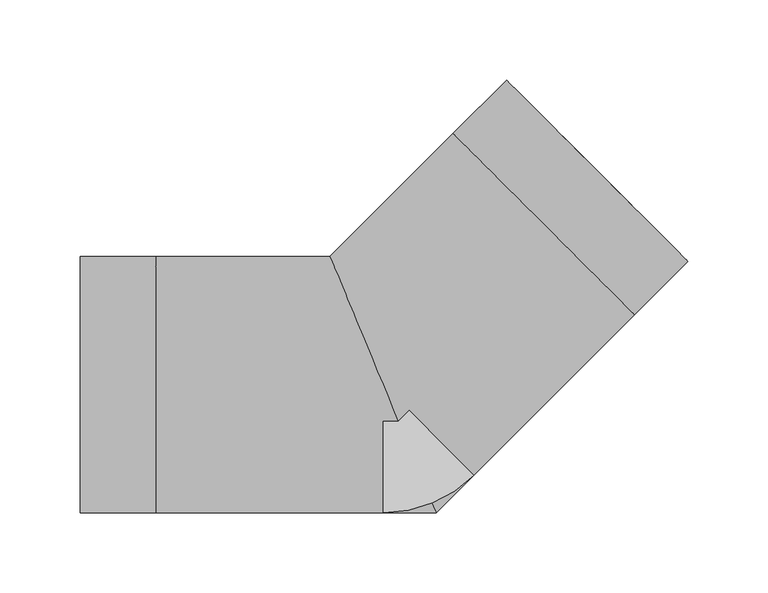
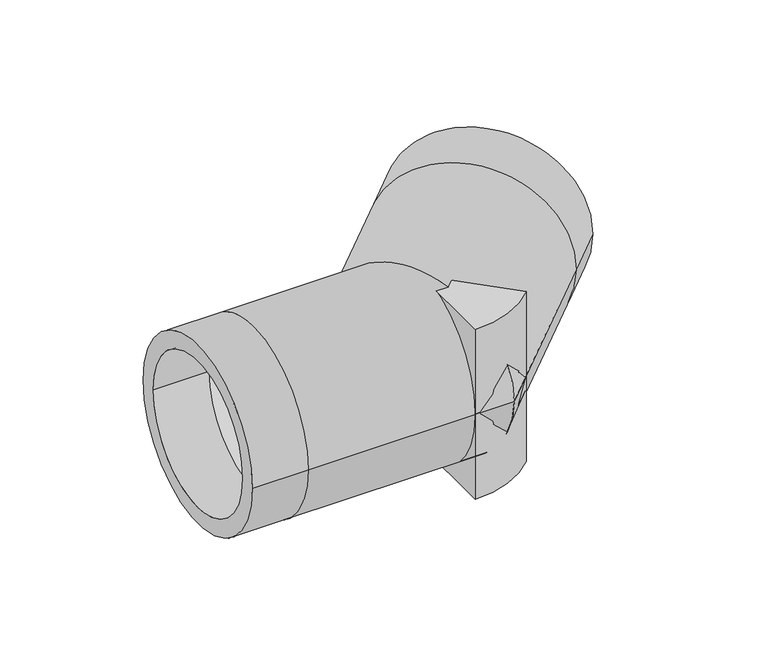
"""IFC4 building model written with IfcOpenShell, lengths in millimetres: pipe fitting geometry, Aquatherm - Elbow Green BW Segmented : SDR 11 NON-FASER."""

from ifc_helpers import new_model, si_unit, point, frame, origin, origin_with_axes, origin_2d, place, context, project, spatial, polyline, circle_curve, ellipse_curve, trimmed, segment, composite_curve, outline, extrude, source, transform, mapped, element, save
from ifc_brep_helpers import plane_surface, cylinder_surface, revolved_surface, advanced_brep


def pipe_fitting_9c2f3510(model_context):
    return source(origin(), model_context, "Body", "SolidModel", [
        extrude(outline(composite_curve([segment(polyline([(0.0, -80.01), (0.0, 0.0), (56.5756136, -56.5756136)]), True, "CONTINUOUS"), segment(trimmed(circle_curve(origin_2d(), 80.01), [point((56.5756136, -56.5756136))], [point((0.0, -80.01))], False, "CARTESIAN"), True, "CONTINUOUS")], self_intersect=False)), frame((0.0, 0.0, -76.2), z_axis=(0.0, 0.0, 1.0), x_axis=(1.0, 0.0, 0.0)), (0.0, 0.0, 1.0), 76.2),
        extrude(outline(composite_curve([segment(trimmed(circle_curve(origin_2d(), 80.01), [point((56.5756136, -56.5756136))], [point((0.0, -80.01))], False, "CARTESIAN"), True, "CONTINUOUS"), segment(polyline([(0.0, -80.01), (0.0, 0.0), (56.5756136, -56.5756136)]), True, "CONTINUOUS")], self_intersect=False)), origin_with_axes(), (0.0, 0.0, 1.0), 76.2),
        advanced_brep(
        [(-188.976, -80.01, 0.0), (-188.976, 80.01, 0.0), (-188.976, -65.4627273, 0.0), (-188.976, 65.4627273, 0.0), (190.2018246, 77.0505975, 0.0), (77.0505975, 190.2018246, 0.0), (179.9153495, 87.3370727, 0.0), (87.3370727, 179.9153495, 0.0), (-141.732, -80.01, 0.0), (-141.732, 80.01, 0.0), (-141.732, -65.4627273, 0.0), (-141.732, 65.4627273, 0.0), (33.1412271, -80.01, 0.0), (-33.1412271, 80.01, 0.0), (27.1155495, -65.4627273, 0.0), (-27.1155495, 65.4627273, 0.0), (156.7952719, 43.6440447, 0.0), (43.6440447, 156.7952719, 0.0), (146.5087967, 53.9305199, 0.0), (53.9305199, 146.5087967, 0.0)],
        [
            (0, 1, circle_curve(frame((-188.976, 0.0, 0.0), z_axis=(-1.0, 0.0, 0.0), x_axis=(0.0, 1.0, 0.0)), 80.01)),
            (1, 0, circle_curve(frame((-188.976, 0.0, 0.0), z_axis=(-1.0, 0.0, 0.0), x_axis=(0.0, 1.0, 0.0)), 80.01)),
            (2, 3, circle_curve(frame((-188.976, 0.0, 0.0), z_axis=(1.0, 0.0, 0.0), x_axis=(0.0, 1.0, 0.0)), 65.4627273)),
            (3, 2, circle_curve(frame((-188.976, 0.0, 0.0), z_axis=(1.0, 0.0, 0.0), x_axis=(0.0, 1.0, 0.0)), 65.4627273)),
            (4, 5, circle_curve(frame((133.6262111, 133.6262111, 0.0), z_axis=(0.7071067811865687, 0.7071067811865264, 0.0), x_axis=(-0.7071067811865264, 0.7071067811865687, 0.0)), 80.01)),
            (5, 4, circle_curve(frame((133.6262111, 133.6262111, 0.0), z_axis=(0.7071067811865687, 0.7071067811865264, 0.0), x_axis=(-0.7071067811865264, 0.7071067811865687, 0.0)), 80.01)),
            (6, 7, circle_curve(frame((133.6262111, 133.6262111, 0.0), z_axis=(-0.7071067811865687, -0.7071067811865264, 0.0), x_axis=(-0.7071067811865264, 0.7071067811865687, 0.0)), 65.4627273)),
            (7, 6, circle_curve(frame((133.6262111, 133.6262111, 0.0), z_axis=(-0.7071067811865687, -0.7071067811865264, 0.0), x_axis=(-0.7071067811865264, 0.7071067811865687, 0.0)), 65.4627273)),
            (0, 8),
            (8, 9, circle_curve(frame((-141.732, 0.0, 0.0), z_axis=(-1.0, 0.0, 0.0), x_axis=(0.0, 1.0, 0.0)), 80.01)),
            (9, 1),
            (9, 8, circle_curve(frame((-141.732, 0.0, 0.0), z_axis=(-1.0, 0.0, 0.0), x_axis=(0.0, 1.0, 0.0)), 80.01)),
            (2, 10),
            (10, 11, circle_curve(frame((-141.732, 0.0, 0.0), z_axis=(1.0, 0.0, 0.0), x_axis=(0.0, 1.0, 0.0)), 65.4627273)),
            (11, 3),
            (11, 10, circle_curve(frame((-141.732, 0.0, 0.0), z_axis=(1.0, 0.0, 0.0), x_axis=(0.0, 1.0, 0.0)), 65.4627273)),
            (8, 12),
            (12, 13, ellipse_curve(frame((0.0, 0.0, 0.0), z_axis=(-0.923879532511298, -0.3826834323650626, 0.0), x_axis=(-0.3826834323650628, 0.923879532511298, 0.0)), 86.6021999, 80.01)),
            (13, 9),
            (13, 12, ellipse_curve(frame((0.0, 0.0, 0.0), z_axis=(-0.923879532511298, -0.3826834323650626, 0.0), x_axis=(-0.3826834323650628, 0.923879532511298, 0.0)), 86.6021999, 80.01)),
            (10, 14),
            (14, 15, ellipse_curve(frame((0.0, 0.0, 0.0), z_axis=(0.923879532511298, 0.3826834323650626, 0.0), x_axis=(0.3826834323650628, -0.923879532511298, 0.0)), 70.8563454, 65.4627273)),
            (15, 11),
            (15, 14, ellipse_curve(frame((0.0, 0.0, 0.0), z_axis=(0.923879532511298, 0.3826834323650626, 0.0), x_axis=(0.3826834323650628, -0.923879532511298, 0.0)), 70.8563454, 65.4627273)),
            (12, 16),
            (16, 17, circle_curve(frame((100.2196583, 100.2196583, 0.0), z_axis=(-0.7071067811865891, -0.7071067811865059, 0.0), x_axis=(-0.7071067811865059, 0.7071067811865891, 0.0)), 80.01)),
            (17, 13),
            (17, 16, circle_curve(frame((100.2196583, 100.2196583, 0.0), z_axis=(-0.7071067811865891, -0.7071067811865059, 0.0), x_axis=(-0.7071067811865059, 0.7071067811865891, 0.0)), 80.01)),
            (14, 18),
            (18, 19, circle_curve(frame((100.2196583, 100.2196583, 0.0), z_axis=(0.7071067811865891, 0.7071067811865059, 0.0), x_axis=(-0.7071067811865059, 0.7071067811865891, 0.0)), 65.4627273)),
            (19, 15),
            (19, 18, circle_curve(frame((100.2196583, 100.2196583, 0.0), z_axis=(0.7071067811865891, 0.7071067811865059, 0.0), x_axis=(-0.7071067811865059, 0.7071067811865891, 0.0)), 65.4627273)),
            (16, 4),
            (5, 17),
            (18, 6),
            (7, 19),
        ],
        [
            plane_surface(frame((-188.976, 0.0, 0.0), z_axis=(-1.0, 0.0, 0.0), x_axis=(0.0, 0.0, 1.0))),
            plane_surface(frame((133.6262111, 133.6262111, 0.0), z_axis=(0.7071067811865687, 0.7071067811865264, 0.0), x_axis=(0.0, 0.0, 1.0))),
            cylinder_surface(frame((-188.976, 0.0, 0.0), z_axis=(-1.0, 0.0, 0.0), x_axis=(0.0, 1.0, 0.0)), 80.01),
            revolved_surface(polyline([(-141.732, 65.4627273, 0.0), (-188.976, 65.4627273, 0.0)]), (-188.976, 0.0, 0.0), (1.0, 0.0, 0.0)),
            cylinder_surface(frame((-141.732, 0.0, 0.0), z_axis=(-1.0, 0.0, 0.0), x_axis=(0.0, 1.0, 0.0)), 80.01),
            revolved_surface(polyline([(27.115549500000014, 65.4627273, 0.0), (-141.732, 65.4627273, 0.0)]), (-141.732, 0.0, 0.0), (1.0, 0.0, 0.0)),
            cylinder_surface(frame((0.0, 0.0, 0.0), z_axis=(-0.7071067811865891, -0.7071067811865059, 0.0), x_axis=(-0.7071067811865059, 0.7071067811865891, 0.0)), 80.01),
            revolved_surface(polyline([(53.9305199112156, 146.50879668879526, 0.0), (-65.46272728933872, 27.115549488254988, 0.0)]), (0.0, 0.0, 0.0), (0.7071067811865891, 0.7071067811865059, 0.0)),
            cylinder_surface(frame((100.2196583, 100.2196583, 0.0), z_axis=(-0.7071067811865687, -0.7071067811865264, 0.0), x_axis=(-0.7071067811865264, 0.7071067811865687, 0.0)), 80.01),
            revolved_surface(polyline([(87.33707271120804, 179.91534948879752, 0.0), (53.93051991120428, 146.50879668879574, 0.0)]), (100.2196583, 100.2196583, 0.0), (0.7071067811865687, 0.7071067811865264, 0.0)),
        ],
        [
            (0, [[1, 2], [3, 4]]),
            (1, [[5, 6], [7, 8]]),
            (2, [[-1, 9, 10, 11]]),
            (2, [[-2, -11, 12, -9]]),
            (3, [[-3, 13, 14, 15]]),
            (3, [[-4, -15, 16, -13]]),
            (4, [[-10, 17, 18, 19]]),
            (4, [[-12, -19, 20, -17]]),
            (5, [[-14, 21, 22, 23]]),
            (5, [[-16, -23, 24, -21]]),
            (6, [[-18, 25, 26, 27]]),
            (6, [[-20, -27, 28, -25]]),
            (7, [[-22, 29, 30, 31]]),
            (7, [[-24, -31, 32, -29]]),
            (8, [[-26, 33, -6, 34]]),
            (8, [[-28, -34, -5, -33]]),
            (9, [[-30, 35, -8, 36]]),
            (9, [[-32, -36, -7, -35]]),
        ],
    ),
    ])


if __name__ == "__main__":
    model = new_model("IFC4")
    model_context = context("Model", 3, world=origin())
    ifc_project = project(units=[si_unit("LENGTHUNIT", "METRE", prefix="MILLI")], contexts=[model_context])
    site = spatial("IfcSite", under=ifc_project)
    building = spatial("IfcBuilding", under=site)
    placement = place(None, origin())
    pipe_fitting_shape = pipe_fitting_9c2f3510(model_context)
    element("IfcPipeFitting", 1, ObjectType="Aquatherm - Elbow Green BW Segmented : SDR 11 NON-FASER", at=placement, inside=building, context=model_context, shape_type="MappedRepresentation", body=[
        mapped(pipe_fitting_shape, transform((0.0, 0.0, 0.0), x_axis=(1.0, 0.0, 0.0), y_axis=(0.0, 1.0, 0.0), z_axis=(0.0, 0.0, 1.0))),
    ])
    save(model, "model.ifc")
